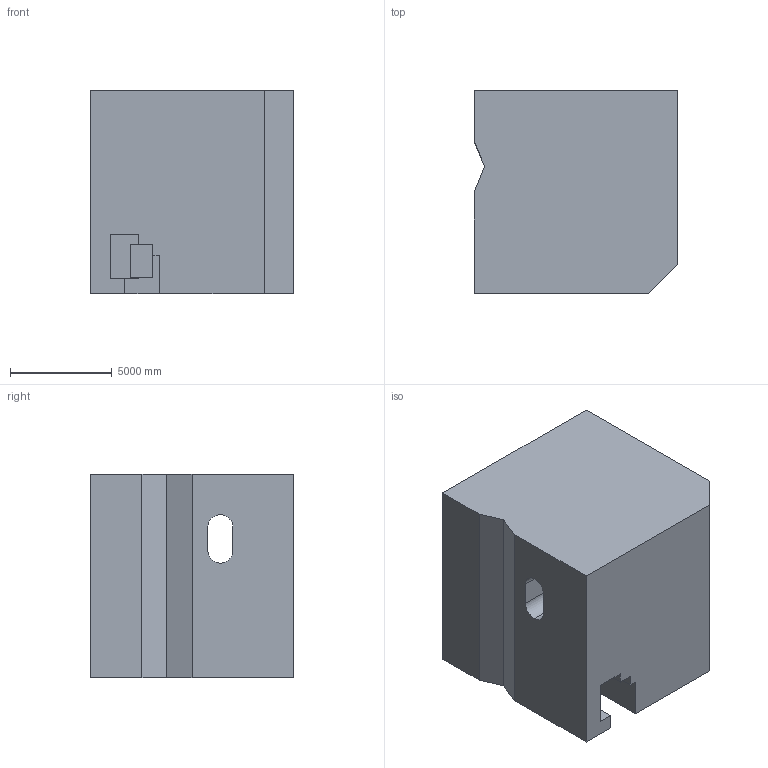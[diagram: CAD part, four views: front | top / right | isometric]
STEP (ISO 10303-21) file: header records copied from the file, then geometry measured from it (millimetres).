
FILE_DESCRIPTION (( 'STEP AP203' ), '1' );
FILE_NAME ('356.STEP', '2022-09-07T15:45:46', ( 'user' ), ( '' ), 'SwSTEP 2.0', 'SolidWorks 2021', '' );
FILE_SCHEMA (( 'CONFIG_CONTROL_DESIGN' ));
Length unit declared in the file: centimetre
Products named in the file (1): 356
Bounding box: 10000 x 10000 x 10000 mm (x, y, z)
Volume: 895842531625.3 mm3; surface area: 745191651.8 mm2
Topology: 1 solids, 1 shells, 41 faces, 114 edges, 76 vertices
Faces by surface type: plane 36, cylinder 5
Entity records: 1379 total; most frequent: CARTESIAN_POINT 232, ORIENTED_EDGE 228, DIRECTION 208, EDGE_CURVE 114, LINE 104, VECTOR 104, VERTEX_POINT 76, AXIS2_PLACEMENT_3D 52
